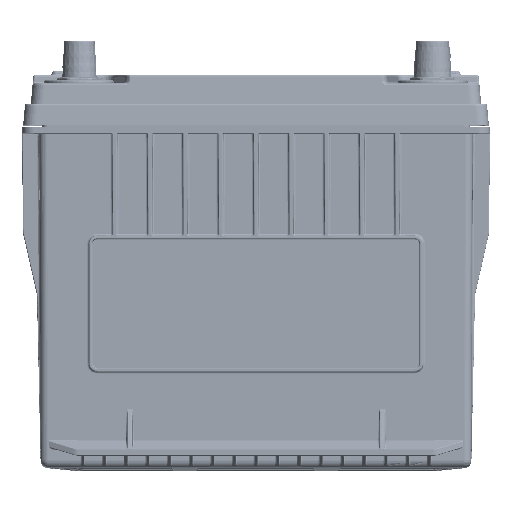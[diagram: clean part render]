
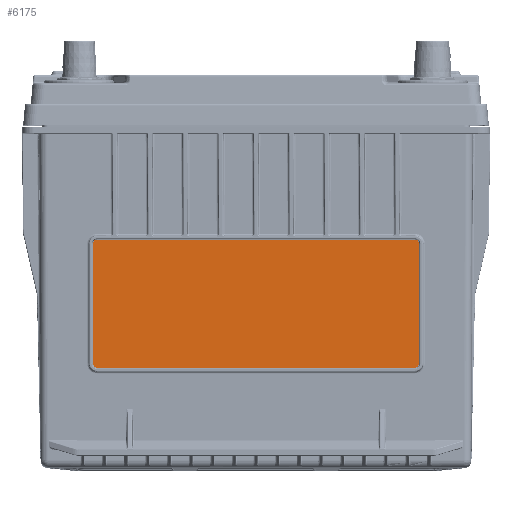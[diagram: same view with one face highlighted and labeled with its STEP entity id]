
A CAD part, top view. The second image highlights one B-rep face of the part: STEP entity #6175.
In plain terms, the highlighted planar face has unit normal (0, -0.003, 1).
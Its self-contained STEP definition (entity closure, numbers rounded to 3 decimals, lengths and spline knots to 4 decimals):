
#4209 = CARTESIAN_POINT ( 'NONE',  ( 3.2942, -2.2262, 3.1756 ) ) ;
#4371 = VECTOR ( 'NONE', #170377, 39.3701 ) ;
#5338 = CARTESIAN_POINT ( 'NONE',  ( -4.353, 0., 3.183 ) ) ;
#6175 = ADVANCED_FACE ( 'NONE', ( #199017 ), #142900, .T. ) ;
#7388 = CARTESIAN_POINT ( 'NONE',  ( 3.2942, -4.6447, 3.1676 ) ) ;
#7587 = CARTESIAN_POINT ( 'NONE',  ( -3.2092, -2.1412, 3.1759 ) ) ;
#13612 = VECTOR ( 'NONE', #93447, 39.3701 ) ;
#26439 = LINE ( 'NONE', #104175, #234466 ) ;
#28408 =( BOUNDED_CURVE ( )  B_SPLINE_CURVE ( 3, ( #181368, #243735, #124042, #30978 ),
 .UNSPECIFIED., .F., .T. ) 
 B_SPLINE_CURVE_WITH_KNOTS ( ( 4, 4 ),
 ( 5.6025, 7.1731 ),
 .UNSPECIFIED. ) 
 CURVE ( )  GEOMETRIC_REPRESENTATION_ITEM ( )  RATIONAL_B_SPLINE_CURVE ( ( 1., 0.805, 0.805, 1. ) ) 
 REPRESENTATION_ITEM ( '' )  );
#29117 = VERTEX_POINT ( 'NONE', #7388 ) ;
#29215 = CARTESIAN_POINT ( 'NONE',  ( 3.2092, -4.7297, 3.1673 ) ) ;
#30069 = VERTEX_POINT ( 'NONE', #63503 ) ;
#30978 = CARTESIAN_POINT ( 'NONE',  ( -3.2092, -4.7297, 3.1673 ) ) ;
#33663 = DIRECTION ( 'NONE',  ( -1., 0., 0. ) ) ;
#35340 = CARTESIAN_POINT ( 'NONE',  ( 3.2942, -2.2265, 3.1756 ) ) ;
#36594 = LINE ( 'NONE', #35340, #4371 ) ;
#40823 = CARTESIAN_POINT ( 'NONE',  ( 3.2092, -4.7297, 3.1673 ) ) ;
#54174 = EDGE_LOOP ( 'NONE', ( #72339, #174310, #107802, #65955, #168430, #172266, #106133, #102620 ) ) ;
#58353 = EDGE_CURVE ( 'NONE', #29117, #249268, #36594, .T. ) ;
#63503 = CARTESIAN_POINT ( 'NONE',  ( -3.2092, -2.1412, 3.1759 ) ) ;
#65955 = ORIENTED_EDGE ( 'NONE', *, *, #179382, .T. ) ;
#70040 = EDGE_CURVE ( 'NONE', #117681, #93791, #111292, .T. ) ;
#72339 = ORIENTED_EDGE ( 'NONE', *, *, #70040, .T. ) ;
#73190 = EDGE_CURVE ( 'NONE', #30069, #157436, #128836, .T. ) ;
#82632 = EDGE_CURVE ( 'NONE', #116310, #117681, #28408, .T. ) ;
#84075 = CARTESIAN_POINT ( 'NONE',  ( 3.2942, -4.6945, 3.1674 ) ) ;
#84344 = DIRECTION ( 'NONE',  ( 0., -1., -0.003 ) ) ;
#87363 =( BOUNDED_CURVE ( )  B_SPLINE_CURVE ( 3, ( #198958, #160699, #205187, #245937 ),
 .UNSPECIFIED., .F., .T. ) 
 B_SPLINE_CURVE_WITH_KNOTS ( ( 4, 4 ),
 ( 5.4114, 6.9818 ),
 .UNSPECIFIED. ) 
 CURVE ( )  GEOMETRIC_REPRESENTATION_ITEM ( )  RATIONAL_B_SPLINE_CURVE ( ( 1., 0.805, 0.805, 1. ) ) 
 REPRESENTATION_ITEM ( '' )  );
#93447 = DIRECTION ( 'NONE',  ( 1., 0., 0. ) ) ;
#93791 = VERTEX_POINT ( 'NONE', #40823 ) ;
#102620 = ORIENTED_EDGE ( 'NONE', *, *, #82632, .T. ) ;
#104175 = CARTESIAN_POINT ( 'NONE',  ( -3.2942, -4.6445, 3.1676 ) ) ;
#106133 = ORIENTED_EDGE ( 'NONE', *, *, #175461, .T. ) ;
#107802 = ORIENTED_EDGE ( 'NONE', *, *, #58353, .T. ) ;
#111292 = LINE ( 'NONE', #228421, #13612 ) ;
#116310 = VERTEX_POINT ( 'NONE', #170130 ) ;
#117681 = VERTEX_POINT ( 'NONE', #251629 ) ;
#121061 = CARTESIAN_POINT ( 'NONE',  ( 3.259, -4.7297, 3.1673 ) ) ;
#122328 = CARTESIAN_POINT ( 'NONE',  ( -3.2942, -2.2262, 3.1756 ) ) ;
#123553 = CARTESIAN_POINT ( 'NONE',  ( 3.2942, -4.6447, 3.1676 ) ) ;
#124042 = CARTESIAN_POINT ( 'NONE',  ( -3.259, -4.7297, 3.1673 ) ) ;
#124347 = AXIS2_PLACEMENT_3D ( 'NONE', #5338, #181140, #84344 ) ;
#128836 =( BOUNDED_CURVE ( )  B_SPLINE_CURVE ( 3, ( #7587, #163009, #142661, #122328 ),
 .UNSPECIFIED., .F., .F. ) 
 B_SPLINE_CURVE_WITH_KNOTS ( ( 4, 4 ),
 ( 2.4429, 4.0134 ),
 .UNSPECIFIED. ) 
 CURVE ( )  GEOMETRIC_REPRESENTATION_ITEM ( )  RATIONAL_B_SPLINE_CURVE ( ( 1., 0.805, 0.805, 1. ) ) 
 REPRESENTATION_ITEM ( '' )  );
#130493 = LINE ( 'NONE', #226043, #222381 ) ;
#142661 = CARTESIAN_POINT ( 'NONE',  ( -3.2942, -2.1764, 3.1758 ) ) ;
#142900 = PLANE ( 'NONE',  #124347 ) ;
#144857 = DIRECTION ( 'NONE',  ( 0., -1., -0.003 ) ) ;
#156367 = EDGE_CURVE ( 'NONE', #93791, #29117, #237255, .T. ) ;
#157436 = VERTEX_POINT ( 'NONE', #237670 ) ;
#160699 = CARTESIAN_POINT ( 'NONE',  ( 3.2942, -2.1764, 3.1758 ) ) ;
#163009 = CARTESIAN_POINT ( 'NONE',  ( -3.259, -2.1412, 3.1759 ) ) ;
#168430 = ORIENTED_EDGE ( 'NONE', *, *, #228175, .T. ) ;
#170130 = CARTESIAN_POINT ( 'NONE',  ( -3.2942, -4.6447, 3.1676 ) ) ;
#170377 = DIRECTION ( 'NONE',  ( 0., 1., 0.003 ) ) ;
#172266 = ORIENTED_EDGE ( 'NONE', *, *, #73190, .T. ) ;
#174310 = ORIENTED_EDGE ( 'NONE', *, *, #156367, .T. ) ;
#175461 = EDGE_CURVE ( 'NONE', #157436, #116310, #26439, .T. ) ;
#178526 = CARTESIAN_POINT ( 'NONE',  ( 3.2092, -2.1412, 3.1759 ) ) ;
#179382 = EDGE_CURVE ( 'NONE', #249268, #233594, #87363, .T. ) ;
#181140 = DIRECTION ( 'NONE',  ( 0., -0.003, 1. ) ) ;
#181368 = CARTESIAN_POINT ( 'NONE',  ( -3.2942, -4.6447, 3.1676 ) ) ;
#198958 = CARTESIAN_POINT ( 'NONE',  ( 3.2942, -2.2262, 3.1756 ) ) ;
#199017 = FACE_OUTER_BOUND ( 'NONE', #54174, .T. ) ;
#205187 = CARTESIAN_POINT ( 'NONE',  ( 3.259, -2.1412, 3.1759 ) ) ;
#222381 = VECTOR ( 'NONE', #33663, 39.3701 ) ;
#226043 = CARTESIAN_POINT ( 'NONE',  ( -4.353, -2.1412, 3.1759 ) ) ;
#228175 = EDGE_CURVE ( 'NONE', #233594, #30069, #130493, .T. ) ;
#228421 = CARTESIAN_POINT ( 'NONE',  ( -4.353, -4.7297, 3.1673 ) ) ;
#233594 = VERTEX_POINT ( 'NONE', #178526 ) ;
#234466 = VECTOR ( 'NONE', #144857, 39.3701 ) ;
#237255 =( BOUNDED_CURVE ( )  B_SPLINE_CURVE ( 3, ( #29215, #121061, #84075, #123553 ),
 .UNSPECIFIED., .F., .T. ) 
 B_SPLINE_CURVE_WITH_KNOTS ( ( 4, 4 ),
 ( 2.2517, 3.8223 ),
 .UNSPECIFIED. ) 
 CURVE ( )  GEOMETRIC_REPRESENTATION_ITEM ( )  RATIONAL_B_SPLINE_CURVE ( ( 1., 0.805, 0.805, 1. ) ) 
 REPRESENTATION_ITEM ( '' )  );
#237670 = CARTESIAN_POINT ( 'NONE',  ( -3.2942, -2.2262, 3.1756 ) ) ;
#243735 = CARTESIAN_POINT ( 'NONE',  ( -3.2942, -4.6945, 3.1674 ) ) ;
#245937 = CARTESIAN_POINT ( 'NONE',  ( 3.2092, -2.1412, 3.1759 ) ) ;
#249268 = VERTEX_POINT ( 'NONE', #4209 ) ;
#251629 = CARTESIAN_POINT ( 'NONE',  ( -3.2092, -4.7297, 3.1673 ) ) ;
